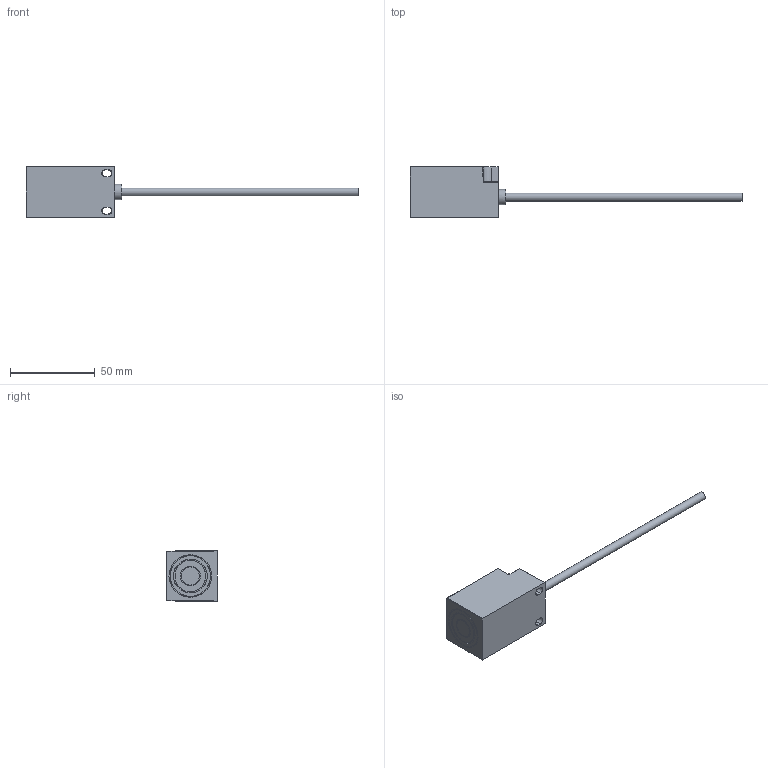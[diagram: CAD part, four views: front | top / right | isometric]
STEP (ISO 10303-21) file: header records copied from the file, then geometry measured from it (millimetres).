
FILE_DESCRIPTION(/* description */ (''),/* implementation_level */ '2;1');
FILE_NAME(/* name */ 'F:\HUAYIFENG\01)HUAYIFENG_宣传文件\HUAYIFENG_\X2\5BA34F2065874EF6\X0\_销售专用\HUAYIFENG_\X2\5BA34F2065874EF6\X0\_销售资料\05)产品销售资料_\X2\63A58FD17CFB5217\X0\\02)接近系列_3D\06)\X2\65B9578B63A58FD1\X0\\SQ15.stp',/* time_stamp */ '2017-12-04T17:45:52+08:00',/* author */ ('fengjiarun'),/* organization */ (''),/* preprocessor_version */ 'ST-DEVELOPER v16.5',/* originating_system */ 'Autodesk Inventor 2017',/* authorisation */ '');
FILE_SCHEMA (('AUTOMOTIVE_DESIGN { 1 0 10303 214 3 1 1 }'));
Length unit declared in the file: millimetre
Products named in the file (1): 零件36
Bounding box: 196.3 x 30 x 30 mm (x, y, z)
Volume: 19297.5 mm3; surface area: 17533.3 mm2
Topology: 2 solids, 2 shells, 111 faces, 257 edges, 162 vertices
Faces by surface type: plane 50, cylinder 30, bspline 12, cone 8, sphere 8, torus 3
Full cylindrical faces by diameter (mm): 4.2 x2, 4.7 x1, 4.75 x1, 7 x1, 9 x1
Entity records: 3294 total; most frequent: CARTESIAN_POINT 636, DIRECTION 542, ORIENTED_EDGE 492, EDGE_CURVE 246, AXIS2_PLACEMENT_3D 200, VERTEX_POINT 158, LINE 142, VECTOR 142
